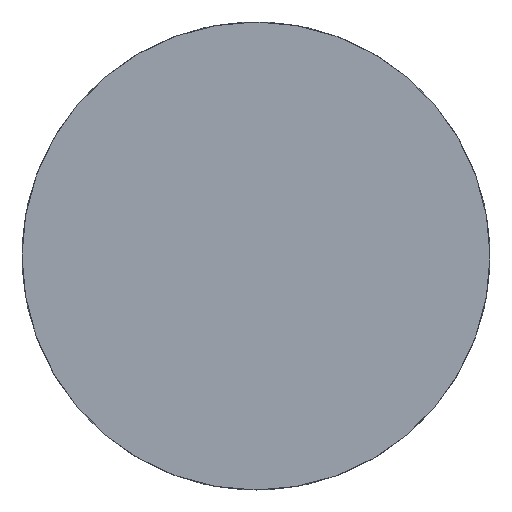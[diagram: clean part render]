
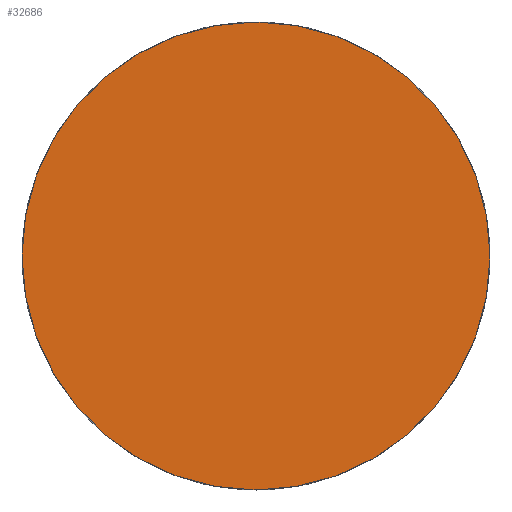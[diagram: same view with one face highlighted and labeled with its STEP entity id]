
A CAD part, top view. The second image highlights one B-rep face of the part: STEP entity #32686.
In plain terms, the highlighted planar face has unit normal (0, 0, 1).
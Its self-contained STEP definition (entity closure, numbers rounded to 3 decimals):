
#7141=CARTESIAN_POINT('',(0.006,-37.,36.9));
#7142=VERTEX_POINT('',#7141);
#7721=CARTESIAN_POINT('',(-0.009,37.,36.9));
#7722=VERTEX_POINT('',#7721);
#7736=CARTESIAN_POINT('',(0.,0.,36.9));
#7741=DIRECTION('',(0.,0.,1.));
#7746=DIRECTION('',(0.,-1.,0.));
#7751=AXIS2_PLACEMENT_3D('',#7736,#7741,#7746);
#7756=CIRCLE('',#7751,37.);
#7761=EDGE_CURVE('',#7142,#7722,#7756,.T.);
#28341=CARTESIAN_POINT('',(0.001,0.,36.9));
#28346=DIRECTION('',(-0.,0.,1.));
#28351=DIRECTION('',(0.,1.,0.));
#28356=AXIS2_PLACEMENT_3D('',#28341,#28346,#28351);
#28361=CIRCLE('',#28356,37.);
#28366=EDGE_CURVE('',#7722,#7142,#28361,.T.);
#32641=DIRECTION('',(0.,0.,1.));
#32646=CARTESIAN_POINT('',(-38.097,-37.001,36.9));
#32651=DIRECTION('',(1.,0.,0.));
#32656=AXIS2_PLACEMENT_3D('',#32646,#32641,#32651);
#32661=PLANE('',#32656);
#32666=ORIENTED_EDGE('',*,*,#28366,.T.);
#32671=ORIENTED_EDGE('',*,*,#7761,.T.);
#32676=EDGE_LOOP('',(#32666,#32671));
#32681=FACE_OUTER_BOUND('',#32676,.T.);
#32686=ADVANCED_FACE('NONE',(#32681),#32661,.T.);
